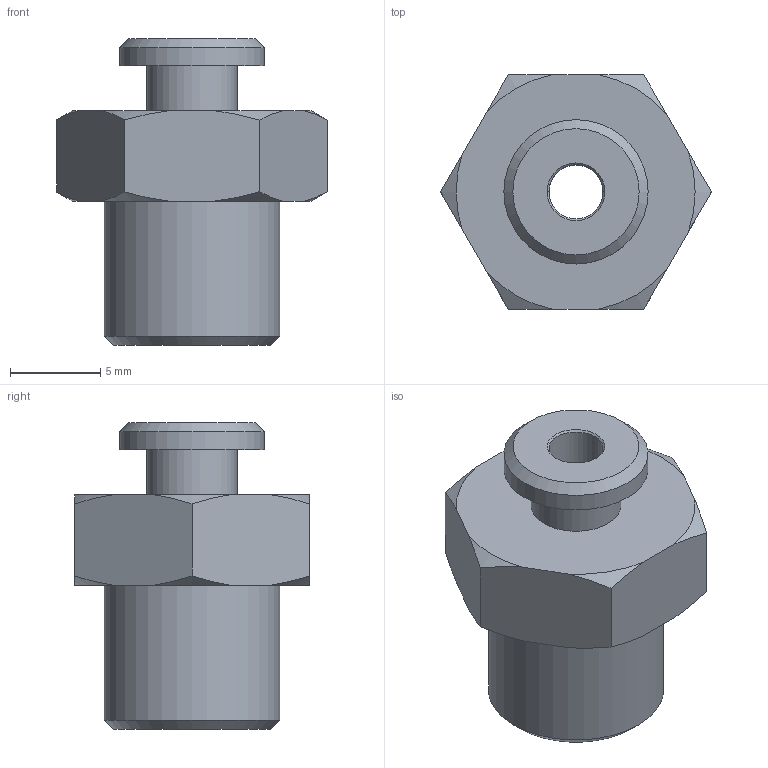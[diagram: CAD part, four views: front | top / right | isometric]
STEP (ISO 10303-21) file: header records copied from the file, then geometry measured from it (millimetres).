
FILE_DESCRIPTION((''),'2;1');
FILE_NAME('W:\Technik\Konstruktion\CAD-Daten\Vakuumsauger\270_\270.064\270.064.stp','2010-05-12T12:17:23',('MOswald'),(''),'Autodesk Inventor 2009','Autodesk Inventor 2009','');
FILE_SCHEMA(('AUTOMOTIVE_DESIGN { 1 0 10303 214 1 1 1 1 }'));
Length unit declared in the file: millimetre
Products named in the file (1): 270.064
Bounding box: 15.01 x 13 x 17 mm (x, y, z)
Volume: 1319.6 mm3; surface area: 1016.8 mm2
Topology: 1 solids, 1 shells, 31 faces, 95 edges, 87 vertices
Faces by surface type: cone 16, plane 11, cylinder 3, bspline 1
Full cylindrical faces by diameter (mm): 5 x1, 8 x1, 9.728 x1
Entity records: 1120 total; most frequent: CARTESIAN_POINT 255, DIRECTION 156, ORIENTED_EDGE 132, EDGE_CURVE 66, AXIS2_PLACEMENT_3D 63, VERTEX_POINT 48, EDGE_LOOP 44, CIRCLE 32
